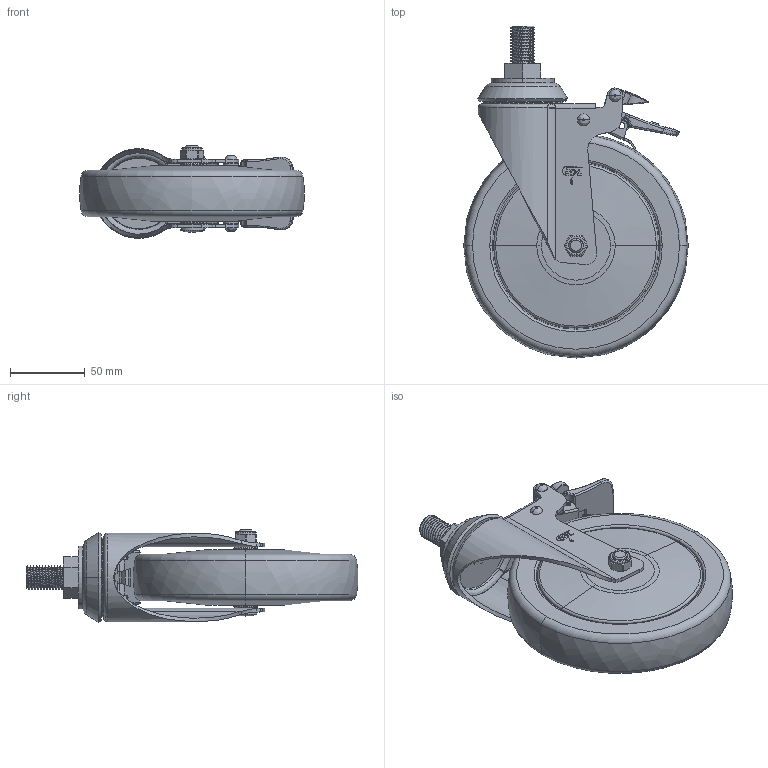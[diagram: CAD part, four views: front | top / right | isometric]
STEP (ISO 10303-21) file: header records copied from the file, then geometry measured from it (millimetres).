
FILE_DESCRIPTION((''),'2;1');
FILE_NAME('57246H-576-77_ASM','2021-01-05T',('lenovo'),(''),'PRO/ENGINEER BY PARAMETRIC TECHNOLOGY CORPORATION, 2010280','PRO/ENGINEER BY PARAMETRIC TECHNOLOGY CORPORATION, 2010280','');
FILE_SCHEMA(('CONFIG_CONTROL_DESIGN'));
Length unit declared in the file: millimetre
Products named in the file (10): 5010-053; 5726-321; 5720-211; 576-77; 5710-020; 5710-031; 570-64OFF; 5734-401; 571-64ON; 57246H-576-77_ASM
Assembly tree (9 placements, depth 2):
  57246H-576-77_ASM
    5010-053
    5726-321
    5720-211
    576-77
    5710-020
    5710-031
    570-64OFF
    5734-401
    571-64ON
Bounding box: 149.8 x 221.4 x 62 mm (x, y, z)
Volume: 668065.6 mm3; surface area: 116265.4 mm2
Topology: 9 solids, 9 shells, 847 faces, 2213 edges, 1407 vertices
Faces by surface type: plane 426, cylinder 223, bspline 98, cone 61, torus 35, sphere 4
Entity records: 33376 total; most frequent: CARTESIAN_POINT 12985, ORIENTED_EDGE 4418, DIRECTION 3929, EDGE_CURVE 2209, VERTEX_POINT 1407, AXIS2_PLACEMENT_3D 1343, VECTOR 1243, LINE 1243
